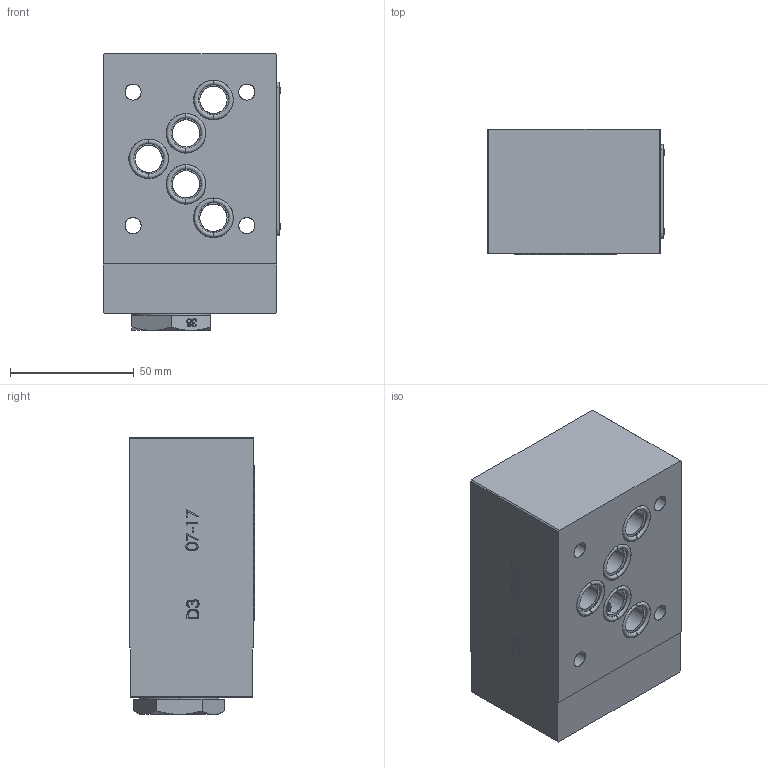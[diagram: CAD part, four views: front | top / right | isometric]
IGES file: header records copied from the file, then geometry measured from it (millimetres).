
Start section: SolidWorks IGES file using analytic representation for surfaces
Global section: file name: C:\Users\pc-te25\Desktop\357-6-B-05.IGS; native system: SolidWorks 2018; preprocessor: SolidWorks 2018; author: pc-te25; date: 191204.085138; units: millimetre
Bounding box: 71.66 x 50.58 x 111.8 mm (x, y, z)
Surface area: 49576.1 mm2 (no closed solid volume)
Topology: 0 solids, 0 shells, 734 faces, 13697 edges, 13697 vertices
Faces by surface type: bspline 607, revolution 127
